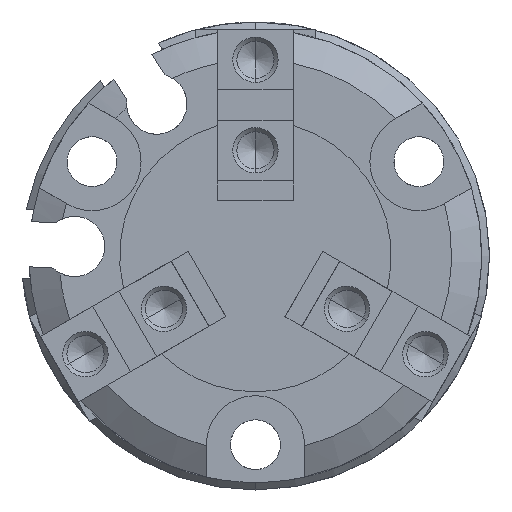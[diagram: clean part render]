
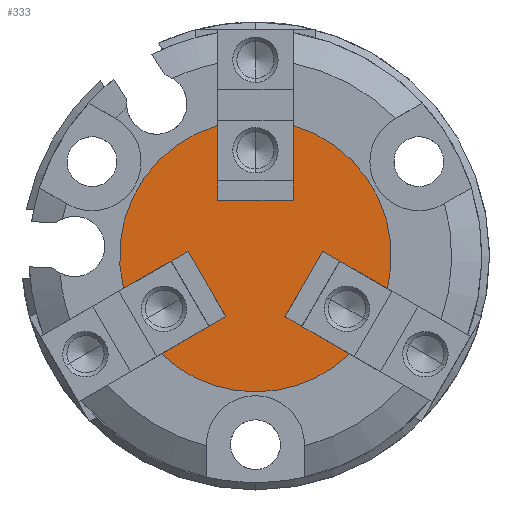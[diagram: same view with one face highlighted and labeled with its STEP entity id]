
A CAD part, front view. The second image highlights one B-rep face of the part: STEP entity #333.
In plain terms, the highlighted planar face has unit normal (0, -1, 0).
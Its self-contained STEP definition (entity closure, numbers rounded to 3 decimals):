
#26 = CARTESIAN_POINT ( 'NONE',  ( 4.454, -44.8, 0.315 ) ) ;
#114 = DIRECTION ( 'NONE',  ( 0., 1., 0. ) ) ;
#140 = EDGE_CURVE ( 'NONE', #5178, #5607, #1045, .T. ) ;
#253 = LINE ( 'NONE', #980, #468 ) ;
#295 = ORIENTED_EDGE ( 'NONE', *, *, #6554, .T. ) ;
#333 = ADVANCED_FACE ( 'NONE', ( #6629 ), #5980, .F. ) ;
#410 = DIRECTION ( 'NONE',  ( 0.693, 0., -0.721 ) ) ;
#412 = LINE ( 'NONE', #7274, #3702 ) ;
#468 = VECTOR ( 'NONE', #7268, 1000. ) ;
#548 = LINE ( 'NONE', #3954, #800 ) ;
#677 = CARTESIAN_POINT ( 'NONE',  ( 1.954, -44.8, -4.015 ) ) ;
#690 = EDGE_CURVE ( 'NONE', #2824, #2398, #412, .T. ) ;
#749 = VERTEX_POINT ( 'NONE', #7391 ) ;
#772 = DIRECTION ( 'NONE',  ( 0., 1., 0. ) ) ;
#800 = VECTOR ( 'NONE', #6291, 1000. ) ;
#965 = ORIENTED_EDGE ( 'NONE', *, *, #140, .F. ) ;
#980 = CARTESIAN_POINT ( 'NONE',  ( -8.737, -44.8, -2.158 ) ) ;
#1012 = CARTESIAN_POINT ( 'NONE',  ( 2.5, -44.8, 8.646 ) ) ;
#1045 = LINE ( 'NONE', #7480, #6949 ) ;
#1224 = AXIS2_PLACEMENT_3D ( 'NONE', #1521, #2566, #4963 ) ;
#1370 = AXIS2_PLACEMENT_3D ( 'NONE', #7136, #772, #4217 ) ;
#1521 = CARTESIAN_POINT ( 'NONE',  ( 0., -44.8, 0. ) ) ;
#1533 = CIRCLE ( 'NONE', #3493, 9. ) ;
#1658 = DIRECTION ( 'NONE',  ( -0.866, 0., 0.5 ) ) ;
#1708 = CARTESIAN_POINT ( 'NONE',  ( 8.737, -44.8, -2.158 ) ) ;
#1901 = LINE ( 'NONE', #2364, #4785 ) ;
#1993 = ORIENTED_EDGE ( 'NONE', *, *, #4994, .F. ) ;
#2122 = VERTEX_POINT ( 'NONE', #6000 ) ;
#2250 = EDGE_CURVE ( 'NONE', #2122, #4993, #253, .T. ) ;
#2320 = ORIENTED_EDGE ( 'NONE', *, *, #6261, .F. ) ;
#2331 = ORIENTED_EDGE ( 'NONE', *, *, #5655, .F. ) ;
#2364 = CARTESIAN_POINT ( 'NONE',  ( 2.5, -44.8, 3.7 ) ) ;
#2374 = DIRECTION ( 'NONE',  ( 0.866, 0., -0.5 ) ) ;
#2397 = VECTOR ( 'NONE', #5641, 1000. ) ;
#2398 = VERTEX_POINT ( 'NONE', #6374 ) ;
#2481 = ORIENTED_EDGE ( 'NONE', *, *, #5063, .F. ) ;
#2495 = DIRECTION ( 'NONE',  ( 0.5, 0., -0.866 ) ) ;
#2501 = DIRECTION ( 'NONE',  ( 0.693, 0., -0.721 ) ) ;
#2566 = DIRECTION ( 'NONE',  ( 0., 1., 0. ) ) ;
#2582 = VECTOR ( 'NONE', #7161, 1000. ) ;
#2591 = CIRCLE ( 'NONE', #6862, 9. ) ;
#2652 = AXIS2_PLACEMENT_3D ( 'NONE', #7141, #5330, #7023 ) ;
#2824 = VERTEX_POINT ( 'NONE', #6660 ) ;
#2860 = DIRECTION ( 'NONE',  ( 0., 1., 0. ) ) ;
#2940 = CARTESIAN_POINT ( 'NONE',  ( -4.454, -44.8, 0.315 ) ) ;
#3005 = ORIENTED_EDGE ( 'NONE', *, *, #690, .T. ) ;
#3090 = VERTEX_POINT ( 'NONE', #5963 ) ;
#3433 = VECTOR ( 'NONE', #2374, 1000. ) ;
#3493 = AXIS2_PLACEMENT_3D ( 'NONE', #6544, #114, #2501 ) ;
#3702 = VECTOR ( 'NONE', #3788, 1000. ) ;
#3788 = DIRECTION ( 'NONE',  ( 0., 0., 1. ) ) ;
#3954 = CARTESIAN_POINT ( 'NONE',  ( -1.954, -44.8, -4.015 ) ) ;
#4012 = ORIENTED_EDGE ( 'NONE', *, *, #6303, .T. ) ;
#4075 = CARTESIAN_POINT ( 'NONE',  ( 0., -44.8, -9. ) ) ;
#4076 = VERTEX_POINT ( 'NONE', #4699 ) ;
#4158 = CIRCLE ( 'NONE', #1224, 9. ) ;
#4217 = DIRECTION ( 'NONE',  ( 0., 0., 1. ) ) ;
#4394 = VERTEX_POINT ( 'NONE', #4938 ) ;
#4699 = CARTESIAN_POINT ( 'NONE',  ( -1.954, -44.8, -4.015 ) ) ;
#4785 = VECTOR ( 'NONE', #6606, 1000. ) ;
#4911 = VERTEX_POINT ( 'NONE', #6851 ) ;
#4938 = CARTESIAN_POINT ( 'NONE',  ( -6.237, -44.8, -6.488 ) ) ;
#4963 = DIRECTION ( 'NONE',  ( 0.278, 0., 0.961 ) ) ;
#4979 = EDGE_LOOP ( 'NONE', ( #2331, #5712, #5572, #6798, #5988, #2320, #6911, #1993, #965, #2481, #295, #4012, #3005 ) ) ;
#4993 = VERTEX_POINT ( 'NONE', #2940 ) ;
#4994 = EDGE_CURVE ( 'NONE', #5607, #7175, #5276, .T. ) ;
#5023 = EDGE_CURVE ( 'NONE', #7175, #749, #5923, .T. ) ;
#5063 = EDGE_CURVE ( 'NONE', #4911, #5178, #4158, .T. ) ;
#5178 = VERTEX_POINT ( 'NONE', #1708 ) ;
#5261 = CIRCLE ( 'NONE', #2652, 9. ) ;
#5262 = VERTEX_POINT ( 'NONE', #4075 ) ;
#5276 = LINE ( 'NONE', #26, #2582 ) ;
#5330 = DIRECTION ( 'NONE',  ( 0., 1., 0. ) ) ;
#5572 = ORIENTED_EDGE ( 'NONE', *, *, #5993, .T. ) ;
#5607 = VERTEX_POINT ( 'NONE', #6327 ) ;
#5641 = DIRECTION ( 'NONE',  ( 0., 0., -1. ) ) ;
#5655 = EDGE_CURVE ( 'NONE', #2122, #2398, #5261, .T. ) ;
#5660 = CARTESIAN_POINT ( 'NONE',  ( 1.954, -44.8, -4.015 ) ) ;
#5712 = ORIENTED_EDGE ( 'NONE', *, *, #2250, .T. ) ;
#5923 = LINE ( 'NONE', #677, #3433 ) ;
#5963 = CARTESIAN_POINT ( 'NONE',  ( 2.5, -44.8, 3.7 ) ) ;
#5965 = LINE ( 'NONE', #7200, #7477 ) ;
#5980 = PLANE ( 'NONE',  #1370 ) ;
#5988 = ORIENTED_EDGE ( 'NONE', *, *, #6863, .F. ) ;
#5993 = EDGE_CURVE ( 'NONE', #4993, #4076, #5965, .T. ) ;
#6000 = CARTESIAN_POINT ( 'NONE',  ( -8.737, -44.8, -2.158 ) ) ;
#6261 = EDGE_CURVE ( 'NONE', #749, #5262, #2591, .T. ) ;
#6291 = DIRECTION ( 'NONE',  ( -0.866, 0., -0.5 ) ) ;
#6303 = EDGE_CURVE ( 'NONE', #3090, #2824, #1901, .T. ) ;
#6327 = CARTESIAN_POINT ( 'NONE',  ( 4.454, -44.8, 0.315 ) ) ;
#6374 = CARTESIAN_POINT ( 'NONE',  ( -2.5, -44.8, 8.646 ) ) ;
#6544 = CARTESIAN_POINT ( 'NONE',  ( 0., -44.8, 0. ) ) ;
#6554 = EDGE_CURVE ( 'NONE', #4911, #3090, #7414, .T. ) ;
#6606 = DIRECTION ( 'NONE',  ( -1., 0., 0. ) ) ;
#6616 = EDGE_CURVE ( 'NONE', #4076, #4394, #548, .T. ) ;
#6629 = FACE_OUTER_BOUND ( 'NONE', #4979, .T. ) ;
#6660 = CARTESIAN_POINT ( 'NONE',  ( -2.5, -44.8, 3.7 ) ) ;
#6798 = ORIENTED_EDGE ( 'NONE', *, *, #6616, .T. ) ;
#6851 = CARTESIAN_POINT ( 'NONE',  ( 2.5, -44.8, 8.646 ) ) ;
#6862 = AXIS2_PLACEMENT_3D ( 'NONE', #6960, #2860, #410 ) ;
#6863 = EDGE_CURVE ( 'NONE', #5262, #4394, #1533, .T. ) ;
#6911 = ORIENTED_EDGE ( 'NONE', *, *, #5023, .F. ) ;
#6949 = VECTOR ( 'NONE', #1658, 1000. ) ;
#6960 = CARTESIAN_POINT ( 'NONE',  ( 0., -44.8, 0. ) ) ;
#7023 = DIRECTION ( 'NONE',  ( -0.971, 0., -0.24 ) ) ;
#7136 = CARTESIAN_POINT ( 'NONE',  ( 0., -44.8, 0. ) ) ;
#7141 = CARTESIAN_POINT ( 'NONE',  ( 0., -44.8, 0. ) ) ;
#7161 = DIRECTION ( 'NONE',  ( -0.5, 0., -0.866 ) ) ;
#7175 = VERTEX_POINT ( 'NONE', #5660 ) ;
#7200 = CARTESIAN_POINT ( 'NONE',  ( -4.454, -44.8, 0.315 ) ) ;
#7268 = DIRECTION ( 'NONE',  ( 0.866, 0., 0.5 ) ) ;
#7274 = CARTESIAN_POINT ( 'NONE',  ( -2.5, -44.8, 3.7 ) ) ;
#7391 = CARTESIAN_POINT ( 'NONE',  ( 6.237, -44.8, -6.488 ) ) ;
#7414 = LINE ( 'NONE', #1012, #2397 ) ;
#7477 = VECTOR ( 'NONE', #2495, 1000. ) ;
#7480 = CARTESIAN_POINT ( 'NONE',  ( 8.737, -44.8, -2.158 ) ) ;
